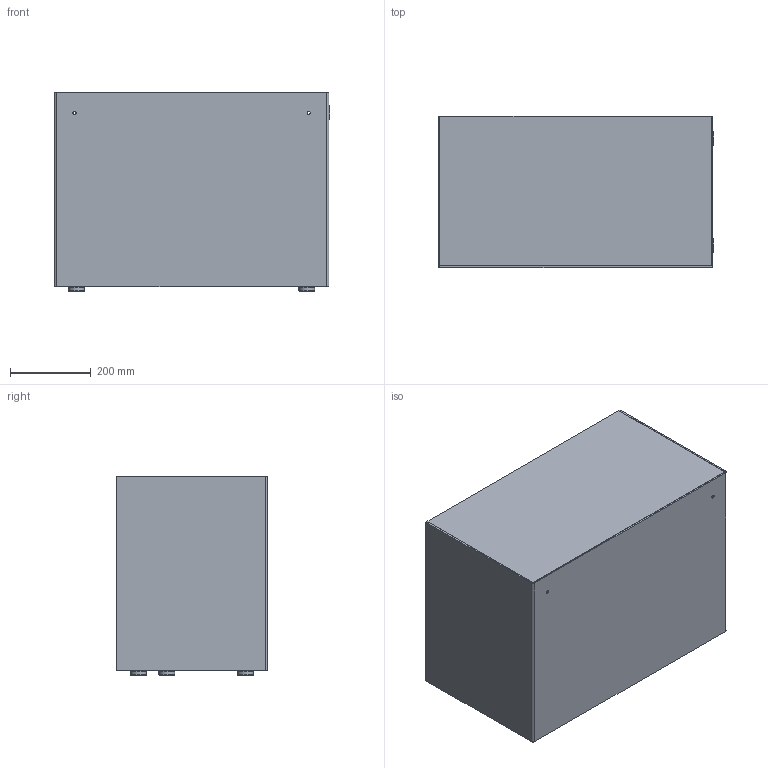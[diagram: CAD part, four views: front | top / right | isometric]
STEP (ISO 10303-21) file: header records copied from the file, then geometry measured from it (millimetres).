
FILE_DESCRIPTION(/* description */ (''),/* implementation_level */ '2;1');
FILE_NAME(/* name */ '10-0000-050390_Nexo Large Bench.stp',/* time_stamp */ '2023-12-06T11:20:52+01:00',/* author */ ('ksj'),/* organization */ (''),/* preprocessor_version */ 'ST-DEVELOPER v19.2',/* originating_system */ 'Autodesk Inventor 2023',/* authorisation */ '');
FILE_SCHEMA (('AUTOMOTIVE_DESIGN { 1 0 10303 214 3 1 1 }'));
Length unit declared in the file: millimetre
Products named in the file (1): 10-0000-050390_Nexo Large Bench
Bounding box: 682 x 375 x 492 mm (x, y, z)
Volume: 4826175.5 mm3; surface area: 2458503.9 mm2
Topology: 22 solids, 22 shells, 144 faces, 286 edges, 188 vertices
Faces by surface type: plane 108, cylinder 36
Full cylindrical faces by diameter (mm): 8 x2, 22 x4, 22.5 x4, 24 x4, 25 x4, 35 x2, 38 x4, 39 x4
Entity records: 3923 total; most frequent: DIRECTION 646, CARTESIAN_POINT 617, ORIENTED_EDGE 568, EDGE_CURVE 284, AXIS2_PLACEMENT_3D 217, LINE 212, VECTOR 212, VERTEX_POINT 184
